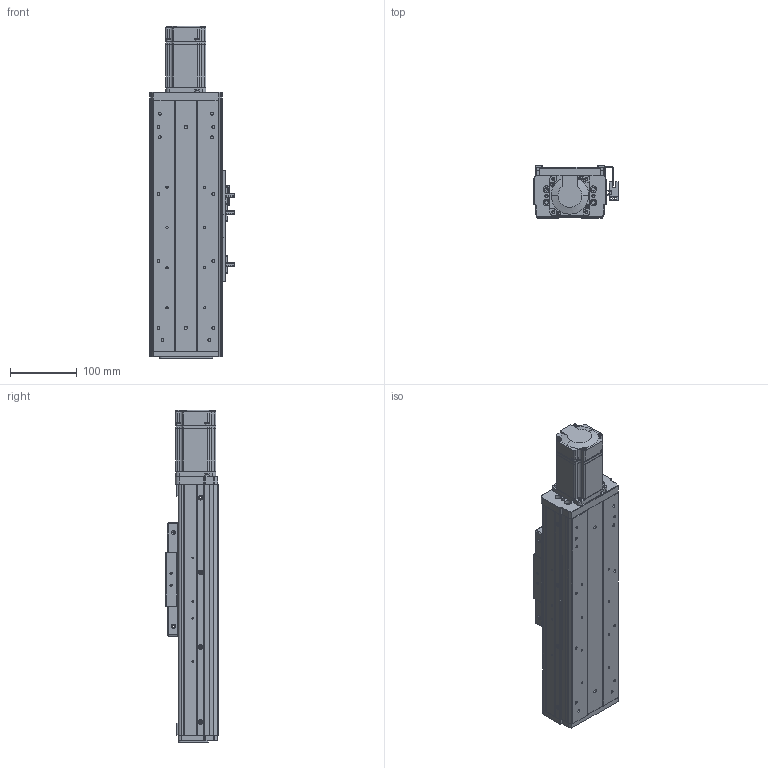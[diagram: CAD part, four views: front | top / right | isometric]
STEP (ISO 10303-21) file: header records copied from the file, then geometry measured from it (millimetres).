
FILE_DESCRIPTION (( 'STEP AP203' ), '1' );
FILE_NAME ('RY100FS-300-MK(15双轨).SLDASM_100.step', '2021-03-02T05:50:37', ( '盈信电脑' ), ( '东莞市道滘镇水果街19号' ), 'SwSTEP 2.0', 'SolidWorks 2012', '' );
FILE_SCHEMA (( 'CONFIG_CONTROL_DESIGN' ));
Products named in the file (20): 滅袉蝶14-24; RY100FS-300-MK(15邧寢).SLDASM_100; RY100FS-双轨螺母座(16丝杆）; 滅袉蝶14-35; RY100FS-15絳寢萇儂假蚾啣(200W PCD70 M4); RY100F-詩湍揤踡輸; 覜茼ん672; RY80俋离覜茼え; 1; RY100F-綴裔啣; 侂狟200W萇儂; 672嫖萇羲壽假蚾釱; 棠沺沭; RY100F-詩湍揤踡謫; RY100F-滅鳥裔啣; RY100F-詩湍幗謫粣; RY100FS-300-MK15邧寢祥凄詩湍_100; RY100FS-双轨铝滑块(上板）; RY100FS-300-MK15絳寢倰第奻裔啣_100; RY100FS-300-MK15絳寢倰第菁釱_100
Assembly tree (27 placements, depth 3):
  RY100FS-300-MK(15邧寢).SLDASM_100
    RY100FS-300-MK15絳寢倰第菁釱_100
    RY100FS-300-MK15絳寢倰第奻裔啣_100  x2
    RY100FS-300-MK15邧寢祥凄詩湍_100
    RY100FS-双轨铝滑块(上板）
    RY100F-滅鳥裔啣
    棠沺沭  x2
    RY100F-詩湍幗謫粣
    RY100F-詩湍揤踡謫  x2
    侂狟200W萇儂
      1
    RY100F-綴裔啣
    672嫖萇羲壽假蚾釱  x2
    RY80俋离覜茼え  x2
    覜茼ん672  x3
    RY100F-詩湍揤踡輸  x2
    RY100FS-15絳寢萇儂假蚾啣(200W PCD70 M4)
    RY100FS-双轨螺母座(16丝杆）
    滅袉蝶14-24
    滅袉蝶14-35
Bounding box: 126.2 x 78.5 x 496 mm (x, y, z)
Volume: 1399271.3 mm3; surface area: 511123.2 mm2
Topology: 26 solids, 26 shells, 1916 faces, 5174 edges, 3358 vertices
Faces by surface type: plane 957, cylinder 798, cone 136, bspline 25
Entity records: 53096 total; most frequent: CARTESIAN_POINT 10377, DIRECTION 8531, ORIENTED_EDGE 8328, EDGE_CURVE 4164, AXIS2_PLACEMENT_3D 2982, VERTEX_POINT 2738, VECTOR 2567, LINE 2567
